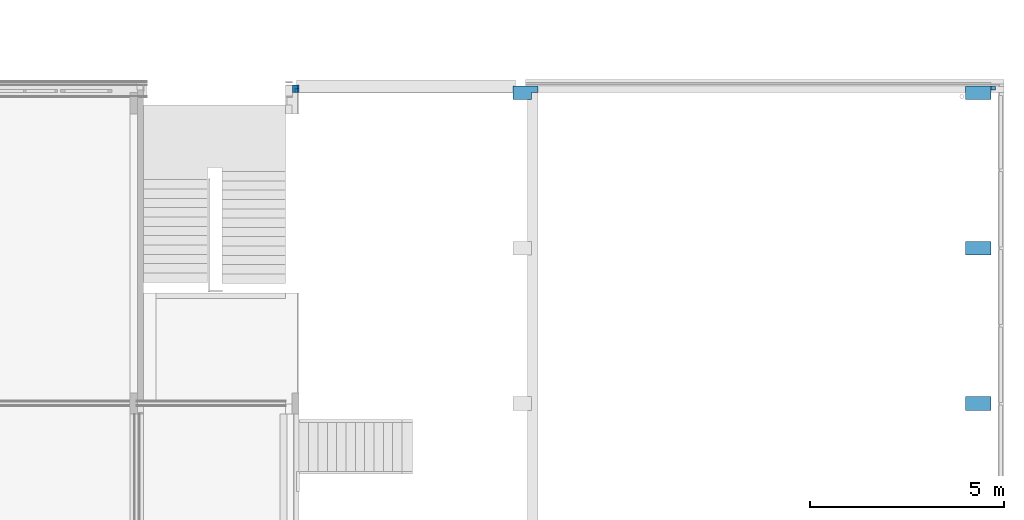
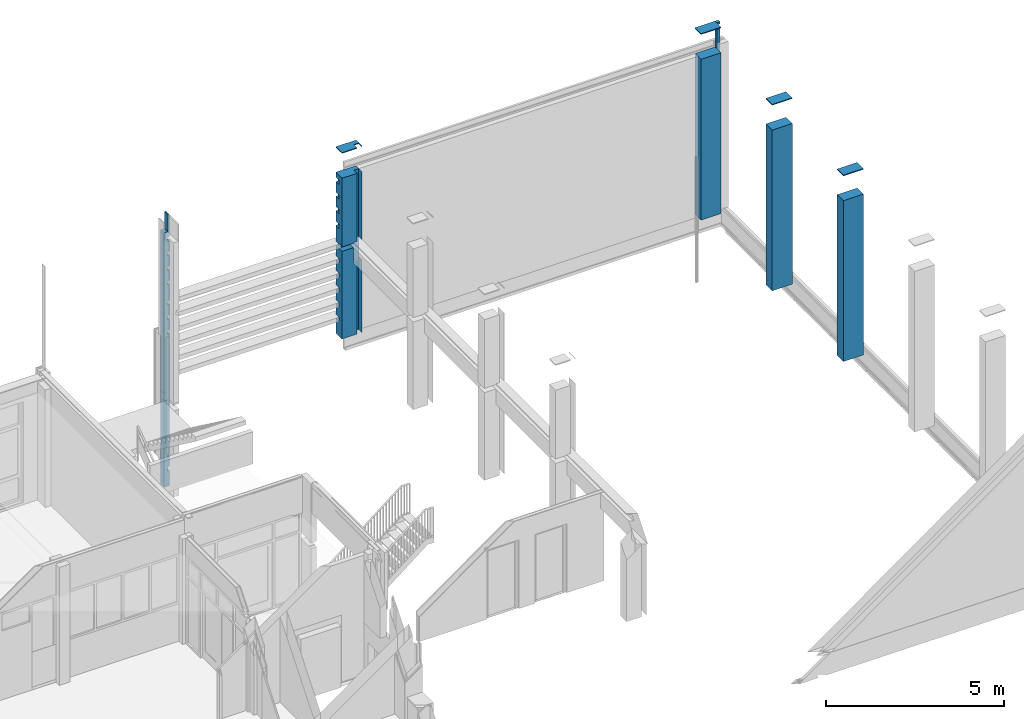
# One storey, part 16 of 94: 8 columns.
"""IFC2X3 building model written with IfcOpenShell, lengths in millimetres."""

from ifc_helpers import new_model, entity, si_unit, converted_unit, derived_unit, money_unit, direction, frame, origin_with_axes, place, context, subcontext, project, spatial, faceted_brep, material, type_object, element, save


model = new_model("IFC2X3")

# Units and contexts
model_context = context("Model", 3, precision=0.01, world=origin_with_axes(), true_north=direction((0.0, 1.0)))
body_context = subcontext(model_context, "Body", "Model", "MODEL_VIEW")
ifc_project = project(units=[si_unit("LENGTHUNIT", "METRE", prefix="MILLI"), si_unit("AREAUNIT", "SQUARE_METRE"), si_unit("VOLUMEUNIT", "CUBIC_METRE"), converted_unit("PLANEANGLEUNIT", "DEGREE", entity("IfcPlaneAngleMeasure", 0.0174532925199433), si_unit("PLANEANGLEUNIT", "RADIAN"), dimensions=[0, 0, 0, 0, 0, 0, 0]), money_unit("EUR"), converted_unit("TIMEUNIT", "Year", entity("IfcTimeMeasure", 31557600.0), si_unit("TIMEUNIT", "SECOND"), dimensions=[0, 0, 1, 0, 0, 0, 0]), si_unit("MASSUNIT", "GRAM", prefix="KILO"), si_unit("THERMODYNAMICTEMPERATUREUNIT", "DEGREE_CELSIUS"), si_unit("LUMINOUSINTENSITYUNIT", "LUMEN"), si_unit("ENERGYUNIT", "JOULE", prefix="MEGA"), derived_unit("THERMALCONDUCTANCEUNIT", [(si_unit("POWERUNIT", "WATT"), 1), (si_unit("LENGTHUNIT", "METRE"), -1), (si_unit("THERMODYNAMICTEMPERATUREUNIT", "KELVIN"), -1)]), derived_unit("SPECIFICHEATCAPACITYUNIT", [(si_unit("ENERGYUNIT", "JOULE"), 1), (si_unit("MASSUNIT", "GRAM", prefix="KILO"), -1), (si_unit("THERMODYNAMICTEMPERATUREUNIT", "KELVIN"), -1)]), derived_unit("MASSDENSITYUNIT", [(si_unit("MASSUNIT", "GRAM", prefix="KILO"), 1), (si_unit("VOLUMEUNIT", "CUBIC_METRE"), -1)])], contexts=[model_context])

# Site, building, storey
site_placement = place(None, origin_with_axes())
site = spatial("IfcSite", under=ifc_project, at=site_placement, Name="<site naam>", CompositionType="ELEMENT")
building_placement = place(site_placement, origin_with_axes())
building = spatial("IfcBuilding", under=site, at=building_placement, Name="<Naam gebouw>", CompositionType="ELEMENT")
storey_placement = place(building_placement, frame((0.0, 0.0, 4250.0), z_axis=(0.0, 0.0, 1.0), x_axis=(1.0, 0.0, 0.0)))
storey = spatial("IfcBuildingStorey", under=building, at=storey_placement, Name="01 1e verdieping", CompositionType="ELEMENT", Elevation=4250.0)

# Columns
ifc_material_1 = material(Name="betonblok C")
column_type_1 = type_object("IfcColumnType", Name="betonblok C 350 x 650", PredefinedType="COLUMN")
column_1_placement = place(storey_placement, frame((58000.00000000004, 19999.99999999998, 2125.0), z_axis=(0.0, 0.0, 1.0), x_axis=(0.0, -1.0, 0.0)))
element("IfcColumn", 1, at=column_1_placement, inside=storey, type_object=column_type_1, material=ifc_material_1, Name="28_Kolom_betonblok", ObjectType="COLUMN", context=body_context, shape_type="Brep", body=[
    faceted_brep([(-175.0000000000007, -325.0000000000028, 0.0), (-175.0000000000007, -325.0000000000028, 500.0), (-175.0000000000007, -254.5009301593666, 500.0), (-175.0000000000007, -254.5009301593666, 650.0000000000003), (-175.0000000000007, -325.0000000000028, 650.0000000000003), (-175.0000000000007, -325.0000000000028, 1000.0), (-175.0000000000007, -254.5009301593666, 1000.0), (-175.0000000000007, -254.5009301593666, 1150.0), (-175.0000000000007, -325.0000000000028, 1150.0), (-175.0000000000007, -325.0000000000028, 1500.0), (-175.0000000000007, -254.5009301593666, 1500.0), (-175.0000000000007, -254.5009301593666, 1650.0), (-175.0000000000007, -325.0000000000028, 1650.0), (-175.0000000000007, -325.0000000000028, 2000.0), (-175.0000000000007, -254.5009301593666, 2000.0), (-175.0000000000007, -254.5009301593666, 2150.0), (-175.0000000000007, -325.0000000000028, 2150.0), (-175.0000000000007, -325.0000000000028, 2500.0), (-175.0000000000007, -254.5009301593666, 2500.0), (-175.0000000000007, -254.5009301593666, 2650.0), (-175.0000000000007, -325.0000000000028, 2650.0), (-175.0000000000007, -325.0000000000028, 3000.0), (-175.0000000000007, -254.5009301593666, 3000.0), (-175.0000000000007, -254.5009301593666, 3150.0), (-175.0000000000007, -325.0000000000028, 3150.0), (-175.0000000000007, -325.0000000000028, 3687.5), (-175.0000000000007, -254.5009301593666, 3687.5), (-175.0000000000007, -254.5009301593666, 3837.5), (-175.0000000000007, -325.0000000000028, 3837.5), (-175.0000000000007, -325.0000000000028, 4187.5), (-175.0000000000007, -254.5009301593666, 4187.5), (-175.0000000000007, -254.5009301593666, 4337.5), (-175.0000000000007, -325.0000000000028, 4337.5), (-175.0000000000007, -325.0000000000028, 4687.5), (-175.0000000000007, -254.5009301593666, 4687.5), (-175.0000000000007, -254.5009301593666, 4837.5), (-175.0000000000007, -325.0000000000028, 4837.5), (-175.0000000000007, -325.0000000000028, 5187.5), (-175.0000000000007, -254.5009301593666, 5187.5), (-175.0000000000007, -254.5009301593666, 5337.5), (-175.0000000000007, -325.0000000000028, 5337.5), (-175.0000000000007, -325.0000000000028, 5515.000000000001), (-175.0000000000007, 0.0, 5515.000000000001), (-175.0000000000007, 0.0, 0.0), (10.00000241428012, -325.0000000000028, 650.0000000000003), (10.00000241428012, -325.0000000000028, 500.0), (175.0000000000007, -325.0000000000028, 0.0), (175.0000000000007, -325.0000000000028, 3008.000000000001), (10.00000241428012, -325.0000000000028, 3008.000000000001), (10.00000241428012, -325.0000000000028, 3000.0), (10.00000241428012, -325.0000000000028, 2650.0), (10.00000241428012, -325.0000000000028, 2500.0), (10.00000241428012, -325.0000000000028, 2150.0), (10.00000241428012, -325.0000000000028, 2000.0), (10.00000241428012, -325.0000000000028, 1650.0), (10.00000241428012, -325.0000000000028, 1500.0), (10.00000241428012, -325.0000000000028, 1150.0), (10.00000241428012, -325.0000000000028, 1000.0), (10.00000241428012, -254.5009301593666, 500.0), (10.00000241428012, -254.5009301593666, 650.0000000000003), (10.00000241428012, -254.5009301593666, 1000.0), (10.00000241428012, -254.5009301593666, 1150.0), (10.00000241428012, -254.5009301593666, 1500.0), (10.00000241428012, -254.5009301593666, 1650.0), (10.00000241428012, -254.5009301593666, 2000.0), (10.00000241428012, -254.5009301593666, 2150.0), (10.00000241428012, -254.5009301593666, 2500.0), (10.00000241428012, -254.5009301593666, 2650.0), (10.00000241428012, -254.5009301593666, 3000.0), (0.0, -254.5009301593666, 3150.0), (10.00000241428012, -254.5009301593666, 3008.000000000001), (0.0, -254.5009301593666, 3008.000000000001), (0.0, -325.0000000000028, 3150.0), (10.00000241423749, -325.0000000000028, 3837.5), (10.00000241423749, -325.0000000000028, 3687.5), (0.0, -325.0000000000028, 3158.000000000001), (175.0000000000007, -325.0000000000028, 3158.000000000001), (175.0000000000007, -325.0000000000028, 5515.000000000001), (10.00000241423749, -325.0000000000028, 5337.5), (10.00000241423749, -325.0000000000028, 5187.5), (10.00000241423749, -325.0000000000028, 4837.5), (10.00000241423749, -325.0000000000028, 4687.5), (10.00000241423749, -325.0000000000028, 4337.5), (10.00000241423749, -325.0000000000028, 4187.5), (10.00000241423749, -254.5009301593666, 3687.5), (10.00000241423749, -254.5009301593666, 3837.5), (10.00000241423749, -254.5009301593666, 4187.5), (10.00000241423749, -254.5009301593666, 4337.5), (10.00000241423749, -254.5009301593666, 4687.5), (10.00000241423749, -254.5009301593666, 4837.5), (10.00000241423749, -254.5009301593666, 5187.5), (10.00000241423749, -254.5009301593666, 5337.5), (175.0000000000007, 325.0000000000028, 5515.000000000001), (-160.0000000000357, 325.0000000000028, 5515.000000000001), (-160.0000000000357, 0.0, 5515.000000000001), (175.0000000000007, 45.00000000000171, 5515.000000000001), (175.0000000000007, 157.7828447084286, 5515.000000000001), (0.0, 157.7828447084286, 5515.000000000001), (0.0, 317.7828447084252, 5515.000000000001), (175.0000000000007, 317.7828447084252, 5515.000000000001), (-160.0000000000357, 0.0, 0.0), (-164.9999941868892, 0.0, 0.0), (-160.0000000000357, 325.0000000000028, 0.0), (175.0000000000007, 325.0000000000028, 0.0), (175.0000000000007, 317.7828447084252, 0.0), (0.0, 317.7828447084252, 0.0), (0.0, 157.7828447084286, 0.0), (175.0000000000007, 157.7828447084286, 0.0), (175.0000000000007, 157.7828447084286, 2487.500000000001), (175.0000000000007, 44.99999999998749, 2487.500000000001), (175.0000000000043, 44.99999999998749, 3008.000000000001), (0.0, 44.99999999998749, 3008.000000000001), (0.0, 317.7828447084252, 3187.5), (0.0, 157.7828447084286, 3187.5), (0.0, 44.99999999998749, 3187.5), (0.0, 44.99999999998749, 3158.000000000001), (0.0, 44.99999999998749, 2487.500000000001), (0.0, 157.7828447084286, 2487.500000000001), (0.0, 317.7828447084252, 2487.500000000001), (0.0, 324.9999999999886, 2487.500000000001), (0.0, 324.9999999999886, 3187.5), (175.0000000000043, 44.99999999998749, 3158.000000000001), (175.0000000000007, 44.99999999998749, 3187.5), (175.0000000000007, 157.7828447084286, 3187.5), (175.0000000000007, 324.9999999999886, 3187.5), (175.0000000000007, 324.9999999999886, 2487.500000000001), (175.0000000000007, 317.7828447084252, 3187.5), (175.0000000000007, 317.7828447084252, 2487.500000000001)], [[[0, 1, 2, 3, 4, 5, 6, 7, 8, 9, 10, 11, 12, 13, 14, 15, 16, 17, 18, 19, 20, 21, 22, 23, 24, 25, 26, 27, 28, 29, 30, 31, 32, 33, 34, 35, 36, 37, 38, 39, 40, 41, 42, 43]], [[44, 45, 1, 0, 46, 47, 48, 49, 21, 20, 50, 51, 17, 16, 52, 53, 13, 12, 54, 55, 9, 8, 56, 57, 5, 4]], [[58, 2, 1, 45]], [[59, 3, 2, 58]], [[44, 4, 3, 59]], [[60, 6, 5, 57]], [[61, 7, 6, 60]], [[56, 8, 7, 61]], [[62, 10, 9, 55]], [[63, 11, 10, 62]], [[54, 12, 11, 63]], [[64, 14, 13, 53]], [[65, 15, 14, 64]], [[52, 16, 15, 65]], [[66, 18, 17, 51]], [[67, 19, 18, 66]], [[50, 20, 19, 67]], [[68, 22, 21, 49]], [[69, 23, 22, 68, 70, 71]], [[72, 24, 23, 69]], [[73, 74, 25, 24, 72, 75, 76, 77, 41, 40, 78, 79, 37, 36, 80, 81, 33, 32, 82, 83, 29, 28]], [[84, 26, 25, 74]], [[85, 27, 26, 84]], [[73, 28, 27, 85]], [[86, 30, 29, 83]], [[87, 31, 30, 86]], [[82, 32, 31, 87]], [[88, 34, 33, 81]], [[89, 35, 34, 88]], [[80, 36, 35, 89]], [[90, 38, 37, 79]], [[91, 39, 38, 90]], [[78, 40, 39, 91]], [[92, 93, 94, 42, 41, 77, 95, 96, 97, 98, 99]], [[43, 42, 94, 100, 101]], [[0, 43, 101, 100, 102, 103, 104, 105, 106, 107, 46]], [[58, 45, 44, 59]], [[108, 109, 110, 47, 46, 107]], [[47, 110, 111, 71, 70, 48]], [[49, 48, 70, 68]], [[66, 51, 50, 67]], [[64, 53, 52, 65]], [[62, 55, 54, 63]], [[60, 57, 56, 61]], [[112, 98, 97, 113, 114, 115, 75, 72, 69, 71, 111, 116, 117, 106, 105, 118, 119, 120]], [[84, 74, 73, 85]], [[75, 115, 121, 76]], [[96, 95, 77, 76, 121, 122, 123]], [[90, 79, 78, 91]], [[88, 81, 80, 89]], [[86, 83, 82, 87]], [[102, 93, 92, 124, 120, 119, 125, 103]], [[100, 94, 93, 102]], [[113, 97, 96, 123]], [[126, 99, 98, 112]], [[124, 92, 99, 126]], [[103, 125, 127, 104]], [[104, 127, 118, 105]], [[106, 117, 108, 107]], [[109, 108, 117, 116]], [[116, 111, 110, 109]], [[114, 113, 123, 122]], [[122, 121, 115, 114]], [[127, 125, 119, 118]], [[112, 120, 124, 126]]]),
    faceted_brep([(175.0000000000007, 325.0000000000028, 6365.0), (-164.9999928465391, 325.0000000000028, 6365.0), (-164.9999928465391, 325.0000000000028, 6395.0), (175.0000000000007, 325.0000000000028, 6395.0), (175.0000000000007, -325.0000000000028, 6365.0), (-164.9999928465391, -325.0000000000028, 6365.0), (175.0000000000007, 317.7828447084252, 6365.0), (0.0, 317.7828447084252, 6365.0), (0.0, 157.7828447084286, 6365.0), (175.0000000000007, 157.7828447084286, 6365.0), (175.0000000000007, 45.00000000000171, 6365.0), (-164.9999928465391, -325.0000000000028, 6395.0), (175.0000000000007, -325.0000000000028, 6395.0), (175.0000000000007, 157.7828447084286, 6395.0), (0.0, 157.7828447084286, 6395.0), (0.0, 317.7828447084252, 6395.0), (175.0000000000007, 317.7828447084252, 6395.0)], [[[0, 1, 2, 3]], [[4, 5, 1, 0, 6, 7, 8, 9, 10]], [[5, 11, 2, 1]], [[3, 2, 11, 12, 13, 14, 15, 16]], [[16, 6, 0, 3]], [[12, 11, 5, 4]], [[15, 7, 6, 16]], [[14, 8, 7, 15]], [[13, 9, 8, 14]], [[12, 4, 10, 9, 13]]]),
])
column_2_placement = place(storey_placement, frame((69650.00000000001, 12000.00000000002, 2125.0), z_axis=(0.0, 0.0, 1.0), x_axis=(0.0, -1.0, 0.0)))
element("IfcColumn", 2, at=column_2_placement, inside=storey, type_object=column_type_1, material=ifc_material_1, Name="28_Kolom_betonblok", ObjectType="COLUMN", context=body_context, shape_type="Brep", body=[
    faceted_brep([(-175.0000000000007, -325.0000000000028, 0.0), (-175.0000000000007, -325.0000000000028, 5515.000000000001), (-175.0000000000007, 325.0000000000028, 5515.000000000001), (-175.0000000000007, 325.0000000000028, 0.0), (175.0000000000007, -325.0000000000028, 0.0), (174.9999999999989, -325.0000000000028, 5515.000000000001), (174.9999999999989, 325.0000000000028, 5515.000000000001), (175.0000000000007, 325.0000000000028, 0.0)], [[[0, 1, 2, 3]], [[4, 5, 1, 0]], [[5, 6, 2, 1]], [[3, 2, 6, 7]], [[4, 0, 3, 7]], [[7, 6, 5, 4]]]),
    faceted_brep([(175.0000000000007, 325.0000000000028, 6395.0), (174.9999999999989, 325.0000000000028, 6365.0), (-175.0000000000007, 325.0000000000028, 6365.0), (-175.0000000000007, 325.0000000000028, 6395.0), (175.0000000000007, -325.0000000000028, 6395.0), (174.9999999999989, -325.0000000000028, 6365.0), (-175.0000000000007, -325.0000000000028, 6365.0), (-175.0000000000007, -325.0000000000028, 6395.0)], [[[0, 1, 2, 3]], [[4, 5, 1, 0]], [[5, 6, 2, 1]], [[3, 2, 6, 7]], [[3, 7, 4, 0]], [[7, 6, 5, 4]]]),
])
column_3_placement = place(storey_placement, frame((69650.00000000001, 19999.99999999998, 2125.0), z_axis=(0.0, 0.0, 1.0), x_axis=(0.0, -1.0, 0.0)))
element("IfcColumn", 3, at=column_3_placement, inside=storey, type_object=column_type_1, material=ifc_material_1, Name="28_Kolom_betonblok", ObjectType="COLUMN", context=body_context, shape_type="Brep", body=[
    faceted_brep([(-160.0000000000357, -325.0000000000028, 0.0), (-160.0000000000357, -325.0000000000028, 5515.000000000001), (-160.0000000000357, 325.0000000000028, 5515.000000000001), (-160.0000000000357, 325.0000000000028, 0.0), (175.0000000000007, -325.0000000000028, 0.0), (175.0000000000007, -325.0000000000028, 5515.000000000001), (175.0000000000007, 325.0000000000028, 5515.000000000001), (175.0000000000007, 325.0000000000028, 0.0)], [[[0, 1, 2, 3]], [[4, 5, 1, 0]], [[5, 6, 2, 1]], [[3, 2, 6, 7]], [[3, 7, 4, 0]], [[7, 6, 5, 4]]]),
    faceted_brep([(175.0000000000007, 325.0000000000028, 6365.0), (-164.9999928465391, 325.0000000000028, 6365.0), (-164.9999928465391, 325.0000000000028, 6395.0), (175.0000000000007, 325.0000000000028, 6395.0), (175.0000000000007, -325.0000000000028, 6365.0), (-164.9999928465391, -325.0000000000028, 6365.0), (-164.9999928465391, -325.0000000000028, 6395.0), (175.0000000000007, -325.0000000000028, 6395.0)], [[[0, 1, 2, 3]], [[4, 5, 1, 0]], [[5, 6, 2, 1]], [[3, 2, 6, 7]], [[7, 4, 0, 3]], [[7, 6, 5, 4]]]),
])
column_4_placement = place(storey_placement, frame((69650.00000000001, 15999.99999999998, 2125.0), z_axis=(0.0, 0.0, 1.0), x_axis=(0.0, -1.0, 0.0)))
element("IfcColumn", 4, at=column_4_placement, inside=storey, type_object=column_type_1, material=ifc_material_1, Name="28_Kolom_betonblok", ObjectType="COLUMN", context=body_context, shape_type="Brep", body=[
    faceted_brep([(-175.0000000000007, -325.0000000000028, 0.0), (-175.0000000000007, -325.0000000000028, 5515.000000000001), (-175.0000000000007, 325.0000000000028, 5515.000000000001), (-175.0000000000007, 325.0000000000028, 0.0), (175.0000000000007, -325.0000000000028, 0.0), (174.9999999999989, -325.0000000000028, 5515.000000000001), (174.9999999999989, 325.0000000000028, 5515.000000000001), (175.0000000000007, 325.0000000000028, 0.0)], [[[0, 1, 2, 3]], [[4, 5, 1, 0]], [[5, 6, 2, 1]], [[3, 2, 6, 7]], [[4, 0, 3, 7]], [[7, 6, 5, 4]]]),
    faceted_brep([(175.0000000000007, 325.0000000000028, 6395.0), (174.9999999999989, 325.0000000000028, 6365.0), (-175.0000000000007, 325.0000000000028, 6365.0), (-175.0000000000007, 325.0000000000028, 6395.0), (175.0000000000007, -325.0000000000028, 6395.0), (174.9999999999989, -325.0000000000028, 6365.0), (-175.0000000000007, -325.0000000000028, 6365.0), (-175.0000000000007, -325.0000000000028, 6395.0)], [[[0, 1, 2, 3]], [[4, 5, 1, 0]], [[5, 6, 2, 1]], [[3, 2, 6, 7]], [[3, 7, 4, 0]], [[7, 6, 5, 4]]]),
])
column_type_2 = type_object("IfcColumnType", Name="betonblok C 175 x 195", PredefinedType="COLUMN")
column_5_placement = place(storey_placement, frame((52087.49973718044, 20097.50000194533, -1082.5), z_axis=(0.0, 0.0, 1.0), x_axis=(1.0, 0.0, 0.0)))
element("IfcColumn", 5, at=column_5_placement, inside=storey, type_object=column_type_2, material=ifc_material_1, Name="28_Kolom_betonblok", ObjectType="COLUMN", context=body_context, shape_type="Brep", body=[
    faceted_brep([(87.50026281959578, -97.50000194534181, 1020.0), (87.50026281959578, -97.50000194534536, 669.9999999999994), (87.50026281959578, 97.50000194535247, 669.9999999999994), (87.50026281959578, 97.50000194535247, 1020.0), (17.50026281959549, -97.50000194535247, 519.9999999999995), (17.50026281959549, -97.50000194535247, 669.9999999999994), (17.50026281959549, -97.50000194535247, 1020.0), (17.50026281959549, -97.50000194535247, 1170.0), (87.50026281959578, -97.50000194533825, 1170.0), (87.50026281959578, -97.5000019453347, 1520.0), (17.50026281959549, -97.50000194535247, 1520.0), (17.50026281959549, -97.50000194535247, 1670.0), (87.50026281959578, -97.50000194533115, 1670.0), (87.50026281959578, -97.5000019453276, 2020.0), (17.50026281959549, -97.50000194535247, 2020.0), (17.50026281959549, -97.50000194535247, 2170.0), (87.50026281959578, -97.5000019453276, 2170.0), (87.50026281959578, -97.50000194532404, 2520.0), (17.50026281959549, -97.50000194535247, 2520.0), (17.50026281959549, -97.50000194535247, 2670.0), (87.50026281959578, -97.50000194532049, 2670.0), (87.50026281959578, -97.50000194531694, 3020.0), (17.50026281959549, -97.50000194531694, 3020.0), (17.50026281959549, -97.50000194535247, 3170.0), (87.50026281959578, -97.50000194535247, 3170.0), (87.50026281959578, -97.50000194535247, 3227.499999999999), (-87.50026281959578, -97.50000194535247, 3227.499999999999), (-87.50026281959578, -97.50000194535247, 0.0), (87.50026281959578, -97.50000194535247, 0.0), (87.50026281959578, -97.50000194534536, 519.9999999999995), (17.50026281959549, 97.50000194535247, 669.9999999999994), (17.50026281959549, 97.50000194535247, 519.9999999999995), (87.50026281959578, 97.50000194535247, 519.9999999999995), (87.50026281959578, 97.50000194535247, 0.0), (-87.50026281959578, 97.50000194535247, 0.0), (-87.50026281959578, 97.50000194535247, 3227.499999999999), (87.50026281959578, 97.50000194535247, 3227.499999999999), (87.50026281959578, 97.50000194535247, 3170.0), (17.50026281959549, 97.50000194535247, 3170.0), (17.50026281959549, 97.50000194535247, 3020.0), (87.50026281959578, 97.50000194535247, 3020.0), (87.50026281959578, 97.50000194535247, 2670.0), (17.50026281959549, 97.50000194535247, 2670.0), (17.50026281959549, 97.50000194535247, 2520.0), (87.50026281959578, 97.50000194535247, 2520.0), (87.50026281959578, 97.50000194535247, 2170.0), (17.50026281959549, 97.50000194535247, 2170.0), (17.50026281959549, 97.50000194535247, 2020.0), (87.50026281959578, 97.50000194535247, 2020.0), (87.50026281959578, 97.50000194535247, 1670.0), (17.50026281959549, 97.50000194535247, 1670.0), (17.50026281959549, 97.50000194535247, 1520.0), (87.50026281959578, 97.50000194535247, 1520.0), (87.50026281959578, 97.50000194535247, 1170.0), (17.50026281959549, 97.50000194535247, 1170.0), (17.50026281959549, 97.50000194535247, 1020.0)], [[[0, 1, 2, 3]], [[4, 5, 1, 0, 6, 7, 8, 9, 10, 11, 12, 13, 14, 15, 16, 17, 18, 19, 20, 21, 22, 23, 24, 25, 26, 27, 28, 29]], [[5, 30, 2, 1]], [[30, 31, 32, 33, 34, 35, 36, 37, 38, 39, 40, 41, 42, 43, 44, 45, 46, 47, 48, 49, 50, 51, 52, 53, 54, 55, 3, 2]], [[6, 0, 3, 55]], [[4, 31, 30, 5]], [[6, 55, 54, 7]], [[7, 54, 53, 8]], [[9, 8, 53, 52]], [[10, 9, 52, 51]], [[10, 51, 50, 11]], [[11, 50, 49, 12]], [[13, 12, 49, 48]], [[14, 13, 48, 47]], [[14, 47, 46, 15]], [[15, 46, 45, 16]], [[17, 16, 45, 44]], [[18, 17, 44, 43]], [[18, 43, 42, 19]], [[19, 42, 41, 20]], [[21, 20, 41, 40]], [[22, 21, 40, 39]], [[22, 39, 38, 23]], [[23, 38, 37, 24]], [[25, 24, 37, 36]], [[36, 35, 26, 25]], [[26, 35, 34, 27]], [[33, 28, 27, 34]], [[33, 32, 29, 28]], [[4, 29, 32, 31]]]),
])
column_6_placement = place(storey_placement, frame((52087.49973718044, 20097.50000194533, 2125.0), z_axis=(0.0, 0.0, 1.0), x_axis=(1.0, 0.0, 0.0)))
element("IfcColumn", 6, at=column_6_placement, inside=storey, type_object=column_type_2, material=ifc_material_1, Name="28_Kolom_betonblok", ObjectType="COLUMN", context=body_context, shape_type="Brep", body=[
    faceted_brep([(87.50026281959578, -97.50000194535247, 1000.0), (87.50026281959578, -97.50000194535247, 650.0000000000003), (87.50026281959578, 97.50000194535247, 650.0000000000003), (87.50026281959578, 97.50000194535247, 1000.0), (17.50026281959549, -97.50000194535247, 500.0), (17.50026281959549, -97.50000194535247, 650.0000000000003), (17.50026281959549, -97.50000194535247, 1000.0), (17.50026281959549, -97.50000194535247, 1150.0), (87.50026281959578, -97.50000194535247, 1150.0), (87.50026281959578, -97.50000194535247, 1500.0), (17.50026281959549, -97.50000194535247, 1500.0), (17.50026281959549, -97.50000194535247, 1650.0), (87.50026281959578, -97.50000194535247, 1650.0), (87.50026281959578, -97.50000194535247, 2000.0), (17.50026281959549, -97.50000194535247, 2000.0), (17.50026281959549, -97.50000194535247, 2150.0), (87.50026281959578, -97.50000194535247, 2150.0), (87.50026281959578, -97.50000194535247, 2500.0), (17.50026281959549, -97.50000194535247, 2500.0), (17.50026281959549, -97.50000194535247, 2650.0), (87.50026281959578, -97.50000194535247, 2650.0), (87.50026281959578, -97.50000194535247, 3000.0), (17.50026281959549, -97.50000194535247, 3000.0), (17.50026281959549, -97.50000194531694, 3150.0), (87.50026281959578, -97.50000194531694, 3150.0), (87.50026281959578, -97.50000194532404, 3687.5), (17.50026281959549, -97.50000194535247, 3687.5), (17.50026281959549, -97.50000194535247, 3837.5), (87.50026281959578, -97.50000194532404, 3837.5), (87.50026281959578, -97.50000194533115, 4187.5), (17.50026281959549, -97.50000194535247, 4187.5), (17.50026281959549, -97.50000194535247, 4337.5), (87.50026281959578, -97.50000194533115, 4337.5), (87.50026281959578, -97.50000194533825, 4687.5), (17.50026281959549, -97.50000194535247, 4687.5), (17.50026281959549, -97.50000194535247, 4837.5), (87.50026281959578, -97.50000194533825, 4837.5), (87.50026281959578, -97.50000194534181, 5187.5), (17.50026281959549, -97.50000194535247, 5187.5), (17.50026281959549, -97.50000194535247, 5337.5), (87.50026281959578, -97.50000194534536, 5337.5), (87.50026281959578, -97.50000194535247, 6094.999999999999), (47.50026281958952, -97.50000194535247, 6094.999999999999), (47.50026281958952, -97.50000194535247, 5515.000000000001), (-87.50026281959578, -97.50000194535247, 5515.000000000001), (-87.50026281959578, -97.50000194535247, 0.0), (87.50026281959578, -97.50000194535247, 0.0), (87.50026281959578, -97.50000194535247, 500.0), (17.50026281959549, 97.50000194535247, 650.0000000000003), (17.50026281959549, 97.50000194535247, 500.0), (87.50026281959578, 97.50000194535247, 500.0), (87.50026281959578, 97.50000194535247, 0.0), (-87.50026281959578, 97.50000194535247, 0.0), (-87.50026281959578, 97.50000194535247, 5515.000000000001), (47.50026281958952, 97.50000194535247, 5515.000000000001), (47.50026281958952, 97.50000194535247, 6094.999999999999), (87.50026281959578, 97.50000194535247, 6094.999999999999), (87.50026281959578, 97.50000194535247, 5337.5), (17.50026281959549, 97.50000194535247, 5337.5), (17.50026281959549, 97.50000194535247, 5187.5), (87.50026281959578, 97.50000194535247, 5187.5), (87.50026281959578, 97.50000194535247, 4837.5), (17.50026281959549, 97.50000194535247, 4837.5), (17.50026281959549, 97.50000194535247, 4687.5), (87.50026281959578, 97.50000194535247, 4687.5), (87.50026281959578, 97.50000194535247, 4337.5), (17.50026281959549, 97.50000194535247, 4337.5), (17.50026281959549, 97.50000194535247, 4187.5), (87.50026281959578, 97.50000194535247, 4187.5), (87.50026281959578, 97.50000194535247, 3837.5), (17.50026281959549, 97.50000194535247, 3837.5), (17.50026281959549, 97.50000194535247, 3687.5), (87.50026281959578, 97.50000194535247, 3687.5), (87.50026281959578, 97.50000194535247, 3150.0), (17.50026281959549, 97.50000194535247, 3150.0), (17.50026281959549, 97.50000194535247, 3000.0), (87.50026281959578, 97.50000194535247, 3000.0), (87.50026281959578, 97.50000194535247, 2650.0), (17.50026281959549, 97.50000194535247, 2650.0), (17.50026281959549, 97.50000194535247, 2500.0), (87.50026281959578, 97.50000194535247, 2500.0), (87.50026281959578, 97.50000194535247, 2150.0), (17.50026281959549, 97.50000194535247, 2150.0), (17.50026281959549, 97.50000194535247, 2000.0), (87.50026281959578, 97.50000194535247, 2000.0), (87.50026281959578, 97.50000194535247, 1650.0), (17.50026281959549, 97.50000194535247, 1650.0), (17.50026281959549, 97.50000194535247, 1500.0), (87.50026281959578, 97.50000194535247, 1500.0), (87.50026281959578, 97.50000194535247, 1150.0), (17.50026281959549, 97.50000194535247, 1150.0), (17.50026281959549, 97.50000194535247, 1000.0)], [[[0, 1, 2, 3]], [[4, 5, 1, 0, 6, 7, 8, 9, 10, 11, 12, 13, 14, 15, 16, 17, 18, 19, 20, 21, 22, 23, 24, 25, 26, 27, 28, 29, 30, 31, 32, 33, 34, 35, 36, 37, 38, 39, 40, 41, 42, 43, 44, 45, 46, 47]], [[5, 48, 2, 1]], [[48, 49, 50, 51, 52, 53, 54, 55, 56, 57, 58, 59, 60, 61, 62, 63, 64, 65, 66, 67, 68, 69, 70, 71, 72, 73, 74, 75, 76, 77, 78, 79, 80, 81, 82, 83, 84, 85, 86, 87, 88, 89, 90, 91, 3, 2]], [[6, 0, 3, 91]], [[4, 49, 48, 5]], [[6, 91, 90, 7]], [[7, 90, 89, 8]], [[9, 8, 89, 88]], [[10, 9, 88, 87]], [[10, 87, 86, 11]], [[11, 86, 85, 12]], [[13, 12, 85, 84]], [[14, 13, 84, 83]], [[14, 83, 82, 15]], [[15, 82, 81, 16]], [[17, 16, 81, 80]], [[18, 17, 80, 79]], [[18, 79, 78, 19]], [[19, 78, 77, 20]], [[21, 20, 77, 76]], [[22, 21, 76, 75]], [[22, 75, 74, 23]], [[23, 74, 73, 24]], [[73, 72, 25, 24]], [[26, 25, 72, 71]], [[26, 71, 70, 27]], [[27, 70, 69, 28]], [[29, 28, 69, 68]], [[30, 29, 68, 67]], [[30, 67, 66, 31]], [[31, 66, 65, 32]], [[33, 32, 65, 64]], [[34, 33, 64, 63]], [[34, 63, 62, 35]], [[35, 62, 61, 36]], [[37, 36, 61, 60]], [[38, 37, 60, 59]], [[38, 59, 58, 39]], [[39, 58, 57, 40]], [[41, 40, 57, 56]], [[56, 55, 42, 41]], [[43, 42, 55, 54]], [[43, 54, 53, 44]], [[45, 44, 53, 52]], [[51, 46, 45, 52]], [[51, 50, 47, 46]], [[4, 47, 50, 49]]]),
])
column_type_3 = type_object("IfcColumnType", Name="betonblok C 108 x 110", PredefinedType="COLUMN")
column_7_placement = place(storey_placement, frame((70030.0001843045, 20121.14988912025, 2125.0), z_axis=(0.0, 0.0, 1.0), x_axis=(0.0, -1.0, 0.0)))
element("IfcColumn", 7, at=column_7_placement, inside=storey, type_object=column_type_3, material=ifc_material_1, Name="28_Kolom_betonblok", ObjectType="COLUMN", context=body_context, shape_type="Brep", body=[
    faceted_brep([(-53.85011087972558, 55.00018430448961, 5685.00000396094), (-53.85011087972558, -55.00018430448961, 5685.00000396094), (-53.85011087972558, -55.00018430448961, 6175.000014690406), (-53.85011087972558, 55.00018430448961, 6175.000014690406), (-38.85011087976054, 55.00018430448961, 5685.00000396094), (-38.85011087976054, -55.00018430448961, 5685.00000396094), (-38.85011087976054, -55.00018430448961, 0.0), (53.85011087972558, -55.00018430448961, 0.0), (53.85011087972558, -55.00018430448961, 6175.000014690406), (53.85011087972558, 55.00018430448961, 6175.000014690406), (53.85011087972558, 55.00018430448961, 0.0), (-38.85011087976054, 55.00018430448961, 0.0)], [[[0, 1, 2, 3]], [[0, 4, 5, 1]], [[6, 7, 8, 2, 1, 5]], [[2, 8, 9, 3]], [[4, 0, 3, 9, 10, 11]], [[11, 6, 5, 4]], [[11, 10, 7, 6]], [[7, 10, 9, 8]]]),
    faceted_brep([(-53.85011087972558, -55.00018430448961, 6325.000014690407), (-53.85011087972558, -55.00018430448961, 6344.99999987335), (-53.85011087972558, 55.00018430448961, 6344.99999987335), (-53.85011087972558, 55.00018430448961, 6325.000014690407), (-43.85010372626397, -55.00018430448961, 6395.0), (-43.85010372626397, -55.00018430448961, 6344.99999987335), (53.85011087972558, -55.00018430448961, 6325.000014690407), (53.85011087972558, -55.00018430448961, 6395.0), (-43.85010372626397, 55.00018430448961, 6344.99999987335), (-43.85010372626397, 55.00018430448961, 6395.0), (53.85011087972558, 55.00018430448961, 6395.0), (53.85011087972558, 55.00018430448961, 6325.000014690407)], [[[0, 1, 2, 3]], [[4, 5, 1, 0, 6, 7]], [[5, 8, 2, 1]], [[2, 8, 9, 10, 11, 3]], [[11, 6, 0, 3]], [[5, 4, 9, 8]], [[10, 7, 6, 11]], [[10, 9, 4, 7]]]),
])
ifc_material_2 = material(Name="beton_gewapend C")
column_type_4 = type_object("IfcColumnType", Name="beton_gewapend C 110 x 108", PredefinedType="COLUMN")
column_8_placement = place(storey_placement, frame((52120.00002385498, 20053.83725919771, 0.0), z_axis=(0.0, 0.0, 1.0), x_axis=(-1.0, 0.0, 0.0)))
element("IfcColumn", 8, at=column_8_placement, inside=storey, type_object=column_type_4, material=ifc_material_2, Name="28_Kolom_beton_gewapend", ObjectType="COLUMN", context=body_context, shape_type="Brep", body=[
    faceted_brep([(-55.00000034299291, -53.83723689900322, 4050.000000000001), (-55.00000034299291, -53.83723689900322, 0.0), (55.00000034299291, -53.83723689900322, 0.0), (55.00000034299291, -53.83723689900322, 4050.000000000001), (-55.00000034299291, 53.83723689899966, 4050.000000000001), (-55.00000034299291, 53.83723689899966, 0.0), (55.00000034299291, 53.83723689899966, 0.0), (55.00000034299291, 53.83723689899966, 4050.000000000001)], [[[0, 1, 2, 3]], [[4, 5, 1, 0]], [[2, 1, 5, 6]], [[3, 2, 6, 7]], [[4, 0, 3, 7]], [[7, 6, 5, 4]]]),
])

save(model, "model.ifc")
